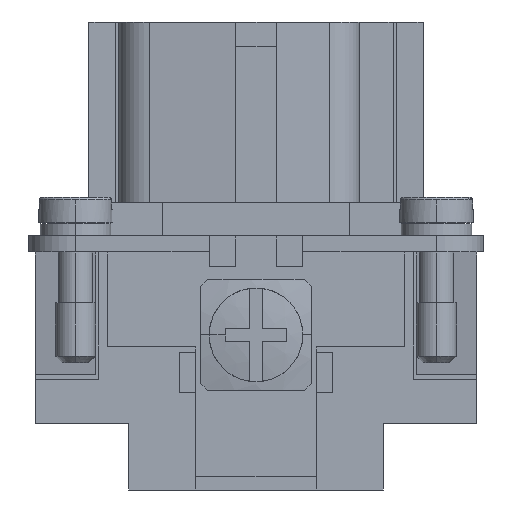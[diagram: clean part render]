
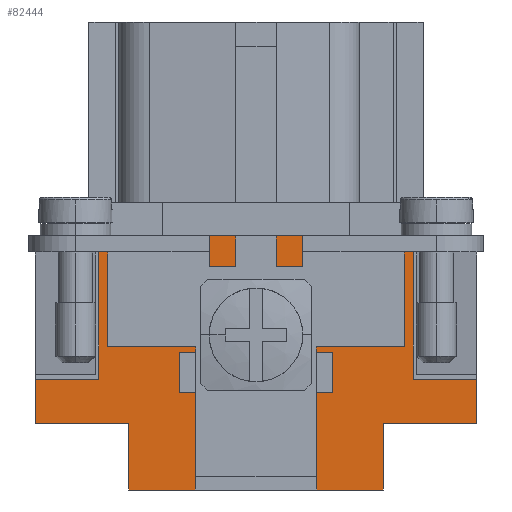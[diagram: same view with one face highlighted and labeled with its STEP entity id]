
A CAD part, left-side view. The second image highlights one B-rep face of the part: STEP entity #82444.
In plain terms, the highlighted planar face has unit normal (-1, 0, 0).
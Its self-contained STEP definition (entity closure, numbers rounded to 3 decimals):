
#50723 = EDGE_CURVE ( 'NONE', #50898, #50957, #51313, .T. ) ;
#50756 = VERTEX_POINT ( 'NONE', #51305 ) ;
#50796 = VERTEX_POINT ( 'NONE', #51296 ) ;
#50802 = VERTEX_POINT ( 'NONE', #51295 ) ;
#50898 = VERTEX_POINT ( 'NONE', #51324 ) ;
#50907 = EDGE_CURVE ( 'NONE', #50796, #50802, #51323, .T. ) ;
#50957 = VERTEX_POINT ( 'NONE', #51384 ) ;
#51235 = EDGE_CURVE ( 'NONE', #50957, #50796, #51473, .T. ) ;
#51295 = CARTESIAN_POINT ( 'NONE',  ( -31.6, -4.55, 0. ) ) ;
#51296 = CARTESIAN_POINT ( 'NONE',  ( -31.6, -4.55, 3.5 ) ) ;
#51305 = CARTESIAN_POINT ( 'NONE',  ( -31.6, 9.5, 0. ) ) ;
#51310 = DIRECTION ( 'NONE',  ( 0., 0., 1. ) ) ;
#51311 = VECTOR ( 'NONE', #51310, 1000. ) ;
#51312 = CARTESIAN_POINT ( 'NONE',  ( -31.6, 4.55, 0. ) ) ;
#51313 = LINE ( 'NONE', #51312, #51311 ) ;
#51320 = DIRECTION ( 'NONE',  ( 0., 0., -1. ) ) ;
#51321 = VECTOR ( 'NONE', #51320, 1000. ) ;
#51322 = CARTESIAN_POINT ( 'NONE',  ( -31.6, -4.55, 0. ) ) ;
#51323 = LINE ( 'NONE', #51322, #51321 ) ;
#51324 = CARTESIAN_POINT ( 'NONE',  ( -31.6, 4.55, 0. ) ) ;
#51384 = CARTESIAN_POINT ( 'NONE',  ( -31.6, 4.55, 3.5 ) ) ;
#51386 = EDGE_CURVE ( 'NONE', #66412, #50756, #51502, .T. ) ;
#51469 = DIRECTION ( 'NONE',  ( 0., -1., 0. ) ) ;
#51470 = VECTOR ( 'NONE', #51469, 1000. ) ;
#51471 = CARTESIAN_POINT ( 'NONE',  ( -31.6, -16.5, 3.5 ) ) ;
#51473 = LINE ( 'NONE', #51471, #51470 ) ;
#51499 = DIRECTION ( 'NONE',  ( 0., 0., -1. ) ) ;
#51500 = VECTOR ( 'NONE', #51499, 1000. ) ;
#51501 = CARTESIAN_POINT ( 'NONE',  ( -31.6, 9.5, 0. ) ) ;
#51502 = LINE ( 'NONE', #51501, #51500 ) ;
#51896 = DIRECTION ( 'NONE',  ( 0., -1., 0. ) ) ;
#51897 = VECTOR ( 'NONE', #51896, 1000. ) ;
#51898 = CARTESIAN_POINT ( 'NONE',  ( -31.6, -16.5, 0. ) ) ;
#51899 = LINE ( 'NONE', #51898, #51897 ) ;
#51995 = CARTESIAN_POINT ( 'NONE',  ( -31.6, -9.5, 0. ) ) ;
#52261 = DIRECTION ( 'NONE',  ( 0., -1., 0. ) ) ;
#52262 = VECTOR ( 'NONE', #52261, 1000. ) ;
#52263 = CARTESIAN_POINT ( 'NONE',  ( -31.6, -16.5, 0. ) ) ;
#52264 = LINE ( 'NONE', #52263, #52262 ) ;
#52302 = CARTESIAN_POINT ( 'NONE',  ( -31.6, -9.5, 5. ) ) ;
#52395 = EDGE_CURVE ( 'NONE', #50802, #52582, #51899, .T. ) ;
#52472 = DIRECTION ( 'NONE',  ( 0., 0., 1. ) ) ;
#52473 = VECTOR ( 'NONE', #52472, 1000. ) ;
#52474 = CARTESIAN_POINT ( 'NONE',  ( -31.6, -9.5, 0. ) ) ;
#52475 = LINE ( 'NONE', #52474, #52473 ) ;
#52582 = VERTEX_POINT ( 'NONE', #51995 ) ;
#53087 = EDGE_CURVE ( 'NONE', #50756, #50898, #52264, .T. ) ;
#53187 = VERTEX_POINT ( 'NONE', #52302 ) ;
#53482 = EDGE_CURVE ( 'NONE', #52582, #53187, #52475, .T. ) ;
#53538 = DIRECTION ( 'NONE',  ( 0., 1., 0. ) ) ;
#53539 = VECTOR ( 'NONE', #53538, 1000. ) ;
#53540 = CARTESIAN_POINT ( 'NONE',  ( -31.6, -16.5, 19. ) ) ;
#53542 = LINE ( 'NONE', #53540, #53539 ) ;
#53837 = CARTESIAN_POINT ( 'NONE',  ( -31.6, -16.5, 8.3 ) ) ;
#53851 = CARTESIAN_POINT ( 'NONE',  ( -31.6, -11.75, 8.3 ) ) ;
#53972 = VECTOR ( 'NONE', #54039, 1000. ) ;
#53973 = CARTESIAN_POINT ( 'NONE',  ( -31.6, -16.5, 8.3 ) ) ;
#53974 = LINE ( 'NONE', #53973, #53972 ) ;
#54039 = DIRECTION ( 'NONE',  ( 0., 1., 0. ) ) ;
#54056 = DIRECTION ( 'NONE',  ( 0., 0., 1. ) ) ;
#54057 = VECTOR ( 'NONE', #54056, 1000. ) ;
#54058 = CARTESIAN_POINT ( 'NONE',  ( -31.6, -11.75, 0. ) ) ;
#54061 = LINE ( 'NONE', #54058, #54057 ) ;
#55964 = EDGE_CURVE ( 'NONE', #62303, #62424, #53542, .T. ) ;
#56619 = VERTEX_POINT ( 'NONE', #53837 ) ;
#56666 = VERTEX_POINT ( 'NONE', #53851 ) ;
#56852 = EDGE_CURVE ( 'NONE', #56619, #56666, #53974, .T. ) ;
#56998 = EDGE_CURVE ( 'NONE', #56666, #62303, #54061, .T. ) ;
#57358 = CARTESIAN_POINT ( 'NONE',  ( -31.6, -11.75, 19. ) ) ;
#57422 = CARTESIAN_POINT ( 'NONE',  ( -31.6, 11.75, 19. ) ) ;
#57651 = CARTESIAN_POINT ( 'NONE',  ( -31.6, -16.5, 5. ) ) ;
#57868 = DIRECTION ( 'NONE',  ( 0., -1., 0. ) ) ;
#57869 = VECTOR ( 'NONE', #57868, 1000. ) ;
#57870 = CARTESIAN_POINT ( 'NONE',  ( -31.6, -16.5, 5. ) ) ;
#57872 = LINE ( 'NONE', #57870, #57869 ) ;
#59384 = CARTESIAN_POINT ( 'NONE',  ( -31.6, 9.5, 5. ) ) ;
#62303 = VERTEX_POINT ( 'NONE', #57358 ) ;
#62424 = VERTEX_POINT ( 'NONE', #57422 ) ;
#62803 = VERTEX_POINT ( 'NONE', #57651 ) ;
#63167 = EDGE_CURVE ( 'NONE', #53187, #62803, #57872, .T. ) ;
#66412 = VERTEX_POINT ( 'NONE', #59384 ) ;
#72793 = DIRECTION ( 'NONE',  ( 0., -1., 0. ) ) ;
#72794 = VECTOR ( 'NONE', #72793, 1000. ) ;
#72795 = CARTESIAN_POINT ( 'NONE',  ( -31.6, -16.5, 5. ) ) ;
#72796 = LINE ( 'NONE', #72795, #72794 ) ;
#73691 = CARTESIAN_POINT ( 'NONE',  ( -31.6, 16.5, 5. ) ) ;
#76994 = DIRECTION ( 'NONE',  ( 0., 0., -1. ) ) ;
#76995 = VECTOR ( 'NONE', #76994, 1000. ) ;
#76996 = CARTESIAN_POINT ( 'NONE',  ( -31.6, -16.5, 0. ) ) ;
#76997 = LINE ( 'NONE', #76996, #76995 ) ;
#77117 = DIRECTION ( 'NONE',  ( 0., 0., 1. ) ) ;
#77118 = VECTOR ( 'NONE', #77117, 1000. ) ;
#77119 = CARTESIAN_POINT ( 'NONE',  ( -31.6, 16.5, 0. ) ) ;
#77120 = LINE ( 'NONE', #77119, #77118 ) ;
#77158 = CARTESIAN_POINT ( 'NONE',  ( -31.6, 11.75, 8.3 ) ) ;
#77262 = FACE_OUTER_BOUND ( 'NONE', #81537, .T. ) ;
#77288 = CARTESIAN_POINT ( 'NONE',  ( -31.6, 16.5, 8.3 ) ) ;
#77289 = DIRECTION ( 'NONE',  ( 0., 0., -1. ) ) ;
#77290 = VECTOR ( 'NONE', #77289, 1000. ) ;
#77291 = CARTESIAN_POINT ( 'NONE',  ( -31.6, 11.75, 19. ) ) ;
#77292 = LINE ( 'NONE', #77291, #77290 ) ;
#77293 = DIRECTION ( 'NONE',  ( 0., -1., 0. ) ) ;
#77294 = VECTOR ( 'NONE', #77293, 1000. ) ;
#77295 = CARTESIAN_POINT ( 'NONE',  ( -31.6, 14.125, 8.3 ) ) ;
#77296 = LINE ( 'NONE', #77295, #77294 ) ;
#77301 = DIRECTION ( 'NONE',  ( 0., 0., 1. ) ) ;
#77302 = DIRECTION ( 'NONE',  ( -1., 0., 0. ) ) ;
#77303 = CARTESIAN_POINT ( 'NONE',  ( -31.6, -16.5, 0. ) ) ;
#77304 = AXIS2_PLACEMENT_3D ( 'NONE', #77303, #77302, #77301 ) ;
#77305 = PLANE ( 'NONE',  #77304 ) ;
#80381 = EDGE_CURVE ( 'NONE', #80716, #66412, #72796, .T. ) ;
#80716 = VERTEX_POINT ( 'NONE', #73691 ) ;
#81458 = ORIENTED_EDGE ( 'NONE', *, *, #80381, .T. ) ;
#81468 = ORIENTED_EDGE ( 'NONE', *, *, #53482, .T. ) ;
#81500 = ORIENTED_EDGE ( 'NONE', *, *, #63167, .T. ) ;
#81504 = ORIENTED_EDGE ( 'NONE', *, *, #50723, .T. ) ;
#81516 = ORIENTED_EDGE ( 'NONE', *, *, #81752, .F. ) ;
#81524 = ORIENTED_EDGE ( 'NONE', *, *, #50907, .T. ) ;
#81537 = EDGE_LOOP ( 'NONE', ( #82386, #82433, #82403, #81593, #81458, #81618, #82360, #81504, #81765, #81524, #81605, #81468, #81500, #81516, #82066, #82067 ) ) ;
#81593 = ORIENTED_EDGE ( 'NONE', *, *, #81774, .F. ) ;
#81605 = ORIENTED_EDGE ( 'NONE', *, *, #52395, .T. ) ;
#81618 = ORIENTED_EDGE ( 'NONE', *, *, #51386, .T. ) ;
#81752 = EDGE_CURVE ( 'NONE', #56619, #62803, #76997, .T. ) ;
#81765 = ORIENTED_EDGE ( 'NONE', *, *, #51235, .T. ) ;
#81774 = EDGE_CURVE ( 'NONE', #80716, #82481, #77120, .T. ) ;
#81786 = VERTEX_POINT ( 'NONE', #77158 ) ;
#82066 = ORIENTED_EDGE ( 'NONE', *, *, #56852, .T. ) ;
#82067 = ORIENTED_EDGE ( 'NONE', *, *, #56998, .T. ) ;
#82360 = ORIENTED_EDGE ( 'NONE', *, *, #53087, .T. ) ;
#82386 = ORIENTED_EDGE ( 'NONE', *, *, #55964, .T. ) ;
#82403 = ORIENTED_EDGE ( 'NONE', *, *, #82453, .F. ) ;
#82433 = ORIENTED_EDGE ( 'NONE', *, *, #82473, .T. ) ;
#82444 = ADVANCED_FACE ( 'NONE', ( #77262 ), #77305, .T. ) ;
#82453 = EDGE_CURVE ( 'NONE', #82481, #81786, #77296, .T. ) ;
#82473 = EDGE_CURVE ( 'NONE', #62424, #81786, #77292, .T. ) ;
#82481 = VERTEX_POINT ( 'NONE', #77288 ) ;
